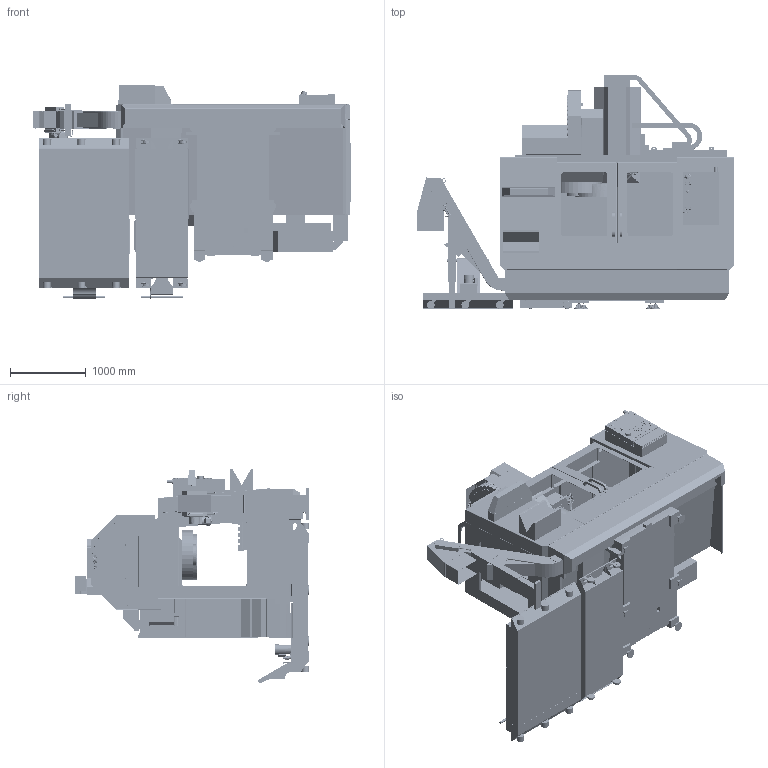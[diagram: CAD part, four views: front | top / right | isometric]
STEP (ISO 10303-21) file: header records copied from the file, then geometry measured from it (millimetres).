
FILE_DESCRIPTION (( 'STEP AP203' ), '1' );
FILE_NAME ('VF-4_4SS_STEP__1_2022.step', '2022-01-11T21:31:58', ( '' ), ( '' ), 'SwSTEP 2.0', 'SolidWorks 2021', '' );
FILE_SCHEMA (( 'CONFIG_CONTROL_DESIGN' ));
Length unit declared in the file: inch
Products named in the file (43): SMTC-ARM-SWING_VF-4_30-SMTC ; 20-UMB-TC_VF-4_4SS_1_2022; 50-SMTC_VF-4_4SS_1_2022; ECABIN-EC-1600; MA-0004_MLD_1_defeature; 10000057196_Pendant_Common_32-6042 FRONT PANEL ASSY MILL SST FREE HANG_defeature; PADS _VF-4_4SS_1_2022; CHIP LIFT_VF-4SS; BASE _VF-4_4SS_1_2022; 30-SMTC-DEF; COLUMN_VF-4_4SS_1_2022; 30-SMTC _VF-4_4SS_1_2022; 55-GAL-COOLANT TANK _VF-4_4SS_1_2022; 37-3702_VF-4-def; PROGRAMMABLE COOLANT NOZZLE_VF-4_4SS_1_2022; ENCLOSURE _VF-4_4SS_1_2022; SMTC-ARM SWING _VF-4_4SS_1_2022; PROGRAMMABLE AIR_VF-4_4SS_1_2022; CHIP-LIFT_VF-4_4SS_1_2022; LOW-PROFILE-INCH-TABLE _VF-4_4SS_1_2022; 95-Gal Coolant Tank; HAAS-P-COOL; AUTOMATIC-AIR-GUN; 10000086728_MLD_1_defeature; 10000086624_MLD_1_defeature; SPINDLE HEAD _VF-4_4SS_1_2022; 10000086642_MLD_1_defeature; HAAS PENDANT _VF-4_4SS_1_2022; LOW-PROFILE-METRIC-TABLE_VF-4_4SS_1_2022; SADDLE_VF-4_4SS_1_2022; ENCLOSURE_VF-4; AUTOMATIC-AIR-GUN_VF-4_4SS_1_2022; 55-Gal Coolant Tank; 37-3703_VF-4-def; MA-0021_1_defeature; STANDARD-SLOTTED-TABLE _VF-4_4SS_1_2022; 10000088010_1_defeature_VF-4SS; Pads_DF; 37-3701_VF-4-def; 95-GAL COOLANT TANK_VF-4_4SS_1_2022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
Assembly tree (47 placements, depth 4):
  VF-4_4SS_STEP__1_2022
    BASE _VF-4_4SS_1_2022
      10000086642_MLD_1_defeature
    COLUMN_VF-4_4SS_1_2022
      10000086624_MLD_1_defeature
    ENCLOSURE _VF-4_4SS_1_2022
      ENCLOSURE_VF-4
      ECABIN-EC-1600
    SADDLE_VF-4_4SS_1_2022
      MA-0004_MLD_1_defeature
    SPINDLE HEAD _VF-4_4SS_1_2022
      10000086728_MLD_1_defeature
    HAAS PENDANT _VF-4_4SS_1_2022
      10000057196_Pendant_Common_32-6042 FRONT PANEL ASSY MILL SST FREE HANG_defeature
        32-6042 FRONT PANEL ASSY MILL SST FREE HANG_defeature^10000057196_Pendant_Common
    55-GAL-COOLANT TANK _VF-4_4SS_1_2022
      55-Gal Coolant Tank
    95-GAL COOLANT TANK_VF-4_4SS_1_2022
      95-Gal Coolant Tank
    PADS _VF-4_4SS_1_2022
      Pads_DF  x6
    LOW-PROFILE-INCH-TABLE _VF-4_4SS_1_2022
      37-3701_VF-4-def
    LOW-PROFILE-METRIC-TABLE_VF-4_4SS_1_2022
      37-3702_VF-4-def
    STANDARD-SLOTTED-TABLE _VF-4_4SS_1_2022
      37-3703_VF-4-def
    AUTOMATIC-AIR-GUN_VF-4_4SS_1_2022
      AUTOMATIC-AIR-GUN
    PROGRAMMABLE COOLANT NOZZLE_VF-4_4SS_1_2022
      HAAS-P-COOL
    20-UMB-TC_VF-4_4SS_1_2022
      MA-0021_1_defeature
    30-SMTC _VF-4_4SS_1_2022
      30-SMTC-DEF
    50-SMTC_VF-4_4SS_1_2022
      10000088010_1_defeature_VF-4SS
    SMTC-ARM SWING _VF-4_4SS_1_2022
      SMTC-ARM-SWING_VF-4_30-SMTC 
    CHIP-LIFT_VF-4_4SS_1_2022
      CHIP LIFT_VF-4SS
    PROGRAMMABLE AIR_VF-4_4SS_1_2022
      10000162251_CMN_defeature
Bounding box: 4218.99 x 3096.97 x 2843.09 mm (x, y, z)
Volume: 4640999108.3 mm3; surface area: 152465543.2 mm2
Topology: 109 solids, 165 shells, 23241 faces, 60600 edges, 38019 vertices
Faces by surface type: plane 11717, cylinder 6660, bspline 2836, cone 1117, torus 624, sphere 287
Entity records: 824460 total; most frequent: CARTESIAN_POINT 276209, ORIENTED_EDGE 118178, DIRECTION 105827, EDGE_CURVE 59089, VERTEX_POINT 37396, AXIS2_PLACEMENT_3D 35464, LINE 34899, VECTOR 34899
